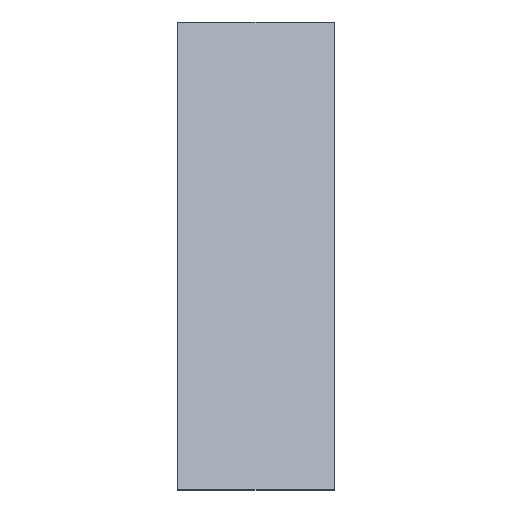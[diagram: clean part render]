
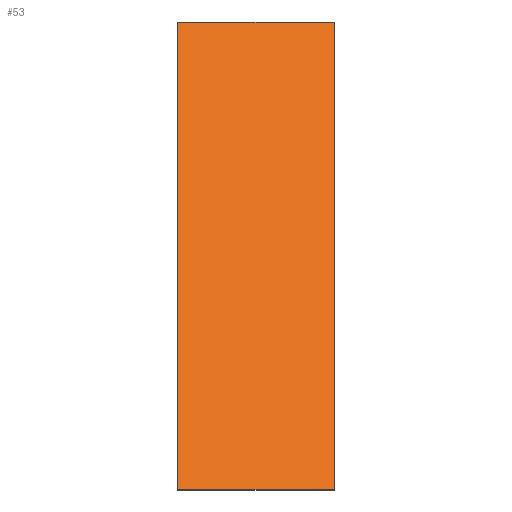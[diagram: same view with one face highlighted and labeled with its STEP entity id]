
A CAD part, front view. The second image highlights one B-rep face of the part: STEP entity #53.
In plain terms, the highlighted planar face has unit normal (0, -0.832, 0.555).
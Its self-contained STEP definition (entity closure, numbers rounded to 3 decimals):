
#53=ADVANCED_FACE('',(#63),#64,.T.);
#63=FACE_OUTER_BOUND('',#76,.T.);
#64=PLANE('',#77);
#76=EDGE_LOOP('',(#99,#100,#101,#102));
#77=AXIS2_PLACEMENT_3D('',#103,#104,#105);
#99=ORIENTED_EDGE('',*,*,#135,.T.);
#100=ORIENTED_EDGE('',*,*,#136,.F.);
#101=ORIENTED_EDGE('',*,*,#137,.T.);
#102=ORIENTED_EDGE('',*,*,#133,.T.);
#103=CARTESIAN_POINT('',(73.,-87.626,-19.067));
#104=DIRECTION('',(0.,-0.832,0.555));
#105=DIRECTION('',(-1.0,0.,0.));
#133=EDGE_CURVE('',#150,#148,#151,.T.);
#135=EDGE_CURVE('',#148,#153,#154,.T.);
#136=EDGE_CURVE('',#155,#153,#156,.T.);
#137=EDGE_CURVE('',#155,#150,#157,.T.);
#148=VERTEX_POINT('',#172);
#150=VERTEX_POINT('',#175);
#151=LINE('',#176,#177);
#153=VERTEX_POINT('',#180);
#154=LINE('',#181,#182);
#155=VERTEX_POINT('',#183);
#156=LINE('',#184,#185);
#157=LINE('',#186,#187);
#172=CARTESIAN_POINT('',(68.,-87.626,-19.067));
#175=CARTESIAN_POINT('',(73.,-87.626,-19.067));
#176=CARTESIAN_POINT('',(73.,-87.626,-19.067));
#177=VECTOR('',#197,0.5);
#180=CARTESIAN_POINT('',(68.,-97.626,-34.067));
#181=CARTESIAN_POINT('',(68.,-97.626,-34.067));
#182=VECTOR('',#199,1.0);
#183=CARTESIAN_POINT('',(73.,-97.626,-34.067));
#184=CARTESIAN_POINT('',(73.,-97.626,-34.067));
#185=VECTOR('',#200,0.5);
#186=CARTESIAN_POINT('',(73.,-97.626,-34.067));
#187=VECTOR('',#201,1.0);
#197=DIRECTION('',(-1.0,0.,0.));
#199=DIRECTION('',(0.,-0.555,-0.832));
#200=DIRECTION('',(-1.0,0.,0.));
#201=DIRECTION('',(0.,0.555,0.832));
